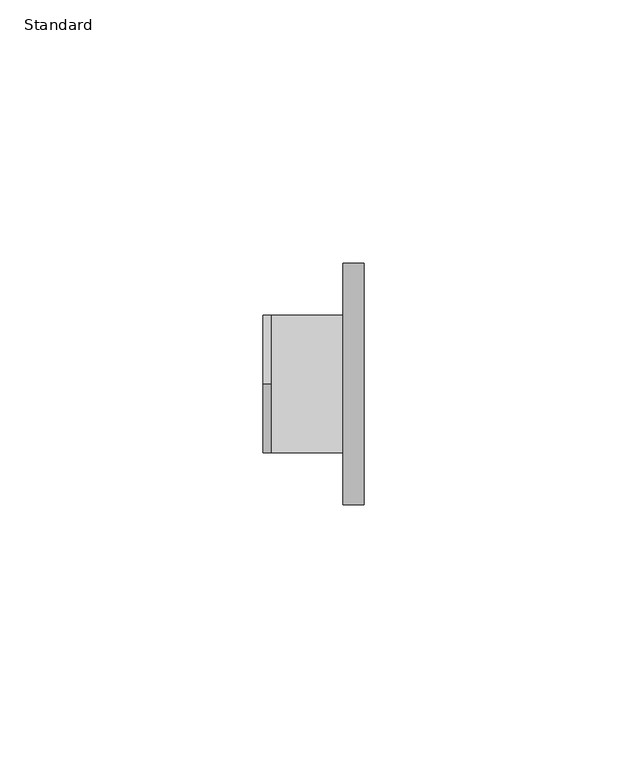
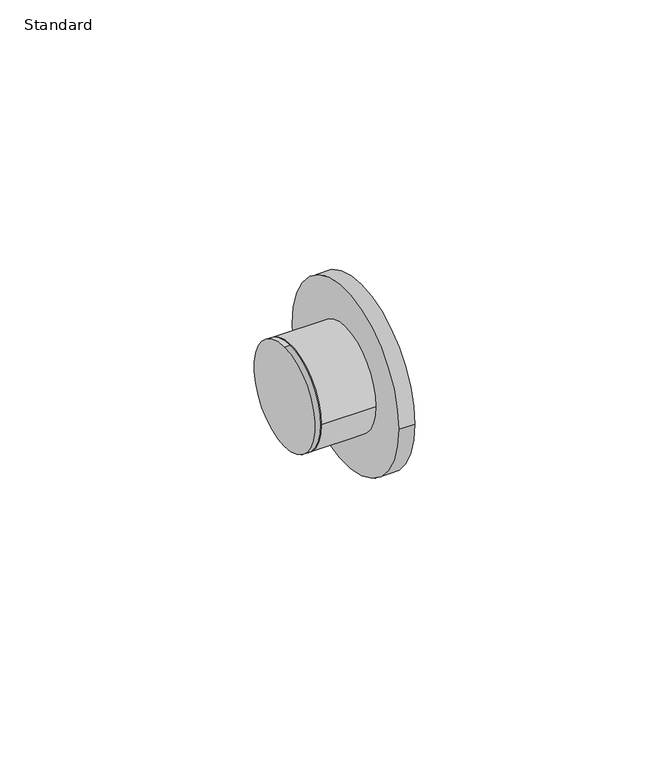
"""IFC4 building model written with IfcOpenShell, lengths in millimetres: pipe fitting geometry, Reducion Bushing_Lubrizol_CPVC_FlowGuard_MX : Standard."""

from ifc_helpers import new_model, si_unit, point, frame, origin, origin_2d, place, context, project, spatial, circle_curve, trimmed, segment, composite_curve, outline, extrude, source, transform, mapped, element, save


def standard_b6fe021b(model_context):
    return source(origin(), model_context, "Body", "SweptSolid", [
        extrude(outline(composite_curve([segment(trimmed(circle_curve(origin_2d(), 13.11), [point((-13.11, 0.0))], [point((13.11, 0.0))], False, "CARTESIAN"), True, "CONTINUOUS"), segment(trimmed(circle_curve(origin_2d(), 13.11), [point((13.11, 0.0))], [point((-13.11, 0.0))], False, "CARTESIAN"), True, "CONTINUOUS")], self_intersect=False)), frame((1.625, 0.0, 0.0), z_axis=(1.0, 0.0, 0.0), x_axis=(0.0, 1.0, 0.0)), (0.0, 0.0, 1.0), 13.588),
        extrude(outline(composite_curve([segment(trimmed(circle_curve(origin_2d(), 22.99), [point((-22.99, 0.0))], [point((22.99, 0.0))], False, "CARTESIAN"), True, "CONTINUOUS"), segment(trimmed(circle_curve(origin_2d(), 22.99), [point((22.99, 0.0))], [point((-22.99, 0.0))], False, "CARTESIAN"), True, "CONTINUOUS")], self_intersect=False)), frame((15.213, 0.0, 0.0), z_axis=(1.0, 0.0, 0.0), x_axis=(0.0, 1.0, 0.0)), (0.0, 0.0, 1.0), 4.0),
        extrude(outline(composite_curve([segment(trimmed(circle_curve(origin_2d(), 13.11), [point((0.0, 13.11))], [point((0.0, -13.11))], False, "CARTESIAN"), True, "CONTINUOUS"), segment(trimmed(circle_curve(origin_2d(), 13.11), [point((0.0, -13.11))], [point((0.0, 13.11))], False, "CARTESIAN"), True, "CONTINUOUS")], self_intersect=False)), frame((0.0, 0.0, 0.0), z_axis=(1.0, 0.0, 0.0), x_axis=(0.0, 1.0, 0.0)), (0.0, 0.0, 1.0), 1.625),
    ])


if __name__ == "__main__":
    model = new_model("IFC4")
    model_context = context("Model", 3, world=origin())
    ifc_project = project(units=[si_unit("LENGTHUNIT", "METRE", prefix="MILLI")], contexts=[model_context])
    site = spatial("IfcSite", under=ifc_project)
    building = spatial("IfcBuilding", under=site)
    placement = place(None, origin())
    standard_shape = standard_b6fe021b(model_context)
    element("IfcPipeFitting", 1, ObjectType="Reducion Bushing_Lubrizol_CPVC_FlowGuard_MX : Standard", at=placement, inside=building, context=model_context, shape_type="MappedRepresentation", body=[
        mapped(standard_shape, transform((0.0, 0.0, 0.0), x_axis=(1.0, 0.0, 0.0), y_axis=(0.0, 1.0, 0.0), z_axis=(0.0, 0.0, 1.0))),
    ])
    save(model, "model.ifc")
